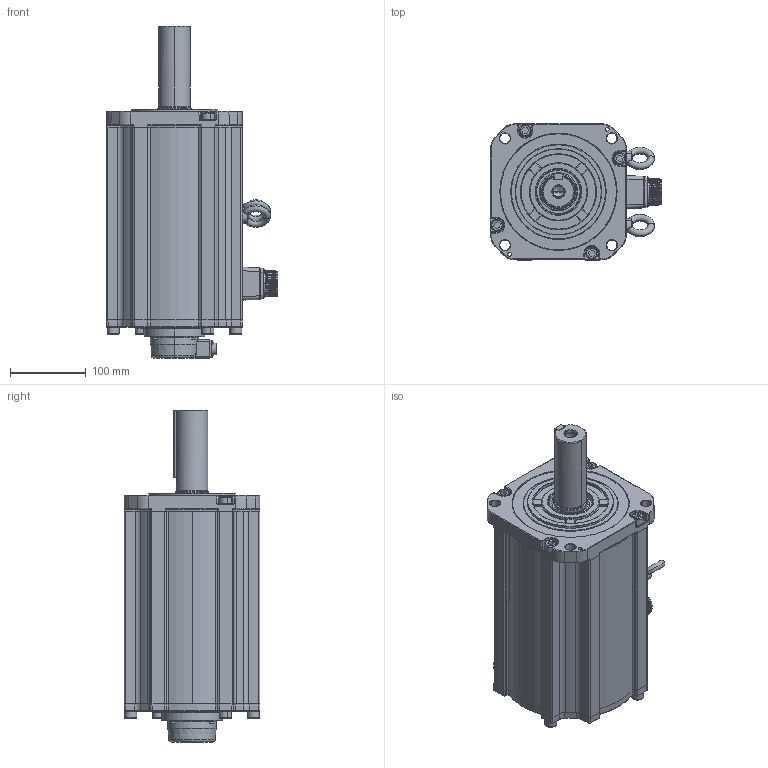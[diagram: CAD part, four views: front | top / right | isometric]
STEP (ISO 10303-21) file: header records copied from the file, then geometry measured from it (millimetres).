
FILE_DESCRIPTION (( 'STEP AP214' ), '1' );
FILE_NAME ('RSA1-M-180-7.5kw.STEP', '2024-08-12T09:31:25', ( '' ), ( '' ), 'SwSTEP 2.0', 'SolidWorks 2020', '' );
FILE_SCHEMA (( 'AUTOMOTIVE_DESIGN' ));
Length unit declared in the file: millimetre
Products named in the file (16): 180-梓袧綴傷裔; 裂遠蹟隊_M8; 180-ヶ傷裔; 180-梓袧雄薯脣釱; 130梓袧綴裔; 内六角圆柱头螺钉_M10x30; RSA1-M-180-7.5kw; 坋趼羞攫芛蹟隊_M3x30; 蚐猾_TC45x62x9; 180-翋粣-42粣噤; 180-M-7.5kw-儂褲; 180-瑤脣釱; 4140000005_电机内部编码器线_7x26AWG(0.1m-CMV1-10芯螺纹插座_GACJ3045); 内六角圆柱头和平垫圈组合螺钉_M3x16; ﾊｮﾗﾖｲﾛﾅﾌﾍｷﾗﾔｼｷﾂﾝｶ､_M3x8; す瑩_B12x8x90
Assembly tree (32 placements, depth 2):
  RSA1-M-180-7.5kw
    180-M-7.5kw-儂褲
    180-ヶ傷裔
    180-瑤脣釱
    180-梓袧綴傷裔
    130梓袧綴裔
    4140000005_电机内部编码器线_7x26AWG(0.1m-CMV1-10芯螺纹插座_GACJ3045)
    180-梓袧雄薯脣釱
    180-翋粣-42粣噤
    す瑩_B12x8x90
    ﾊｮﾗﾖｲﾛﾅﾌﾍｷﾗﾔｼｷﾂﾝｶ､_M3x8  x4
    坋趼羞攫芛蹟隊_M3x30  x4
    内六角圆柱头螺钉_M10x30  x8
    内六角圆柱头和平垫圈组合螺钉_M3x16  x4
    蚐猾_TC45x62x9
    裂遠蹟隊_M8  x2
Bounding box: 226.5 x 180 x 439.5 mm (x, y, z)
Volume: 7638887.7 mm3; surface area: 586017 mm2
Topology: 43 solids, 44 shells, 2866 faces, 7100 edges, 4456 vertices
Faces by surface type: plane 1069, cylinder 743, bspline 464, cone 335, torus 215, sphere 40
Entity records: 104689 total; most frequent: CARTESIAN_POINT 38008, ORIENTED_EDGE 12262, DIRECTION 11016, EDGE_CURVE 6131, AXIS2_PLACEMENT_3D 4045, VERTEX_POINT 3872, LINE 2926, VECTOR 2926
